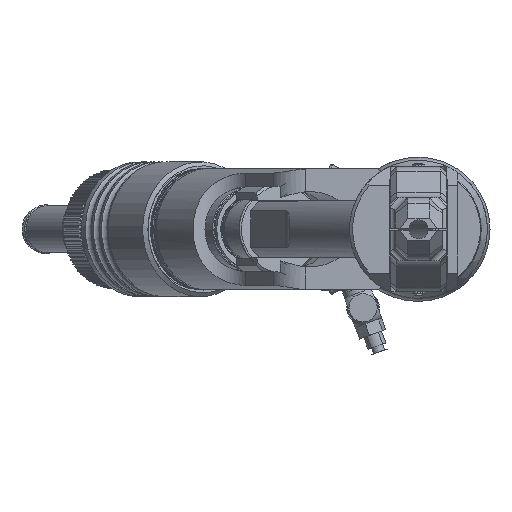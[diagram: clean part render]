
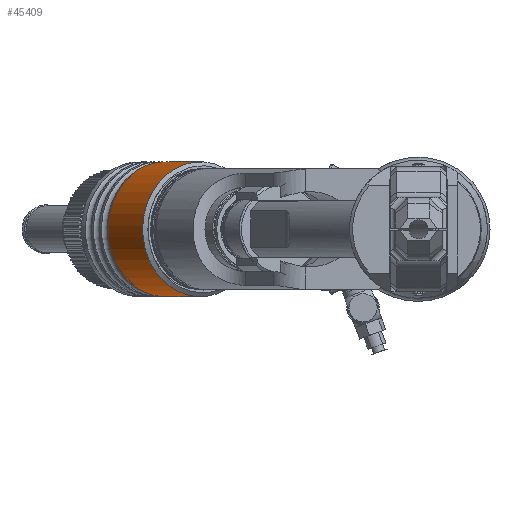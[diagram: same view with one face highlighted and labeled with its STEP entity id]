
A CAD part, left-side view. The second image highlights one B-rep face of the part: STEP entity #45409.
In plain terms, the highlighted cylindrical face has radius 21.5 mm (diameter 43 mm), a full revolution.
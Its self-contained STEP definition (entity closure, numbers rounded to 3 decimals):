
#1078=CYLINDRICAL_SURFACE('',#47967,21.5);
#2062=LINE('',#65032,#5211);
#5211=VECTOR('',#52280,21.5);
#10785=FACE_OUTER_BOUND('',#13256,.T.);
#13256=EDGE_LOOP('',(#29721,#29722,#29723,#29724,#29725,#29726,#29727));
#15994=CIRCLE('',#47964,21.5);
#15995=CIRCLE('',#47965,21.5);
#15996=CIRCLE('',#47966,21.5);
#15997=CIRCLE('',#47968,21.5);
#15998=CIRCLE('',#47969,21.5);
#18071=VERTEX_POINT('',#65020);
#18072=VERTEX_POINT('',#65022);
#18073=VERTEX_POINT('',#65024);
#18074=VERTEX_POINT('',#65028);
#18075=VERTEX_POINT('',#65029);
#22738=EDGE_CURVE('',#18072,#18071,#15994,.T.);
#22739=EDGE_CURVE('',#18073,#18072,#15995,.T.);
#22740=EDGE_CURVE('',#18071,#18073,#15996,.T.);
#22741=EDGE_CURVE('',#18074,#18075,#15997,.T.);
#22742=EDGE_CURVE('',#18075,#18074,#15998,.T.);
#22743=EDGE_CURVE('',#18075,#18073,#2062,.T.);
#29721=ORIENTED_EDGE('',*,*,#22741,.F.);
#29722=ORIENTED_EDGE('',*,*,#22742,.F.);
#29723=ORIENTED_EDGE('',*,*,#22743,.T.);
#29724=ORIENTED_EDGE('',*,*,#22739,.T.);
#29725=ORIENTED_EDGE('',*,*,#22738,.T.);
#29726=ORIENTED_EDGE('',*,*,#22740,.T.);
#29727=ORIENTED_EDGE('',*,*,#22743,.F.);
#45409=ADVANCED_FACE('',(#10785),#1078,.T.);
#47964=AXIS2_PLACEMENT_3D('',#65023,#52268,#52269);
#47965=AXIS2_PLACEMENT_3D('',#65025,#52270,#52271);
#47966=AXIS2_PLACEMENT_3D('',#65026,#52272,#52273);
#47967=AXIS2_PLACEMENT_3D('',#65027,#52274,#52275);
#47968=AXIS2_PLACEMENT_3D('',#65030,#52276,#52277);
#47969=AXIS2_PLACEMENT_3D('',#65031,#52278,#52279);
#52268=DIRECTION('center_axis',(-0.857,-0.515,0.));
#52269=DIRECTION('ref_axis',(-0.352,0.586,-0.73));
#52270=DIRECTION('center_axis',(-0.857,-0.515,0.));
#52271=DIRECTION('ref_axis',(-0.352,0.586,-0.73));
#52272=DIRECTION('center_axis',(-0.857,-0.515,0.));
#52273=DIRECTION('ref_axis',(-0.352,0.586,-0.73));
#52274=DIRECTION('center_axis',(-0.857,-0.515,0.));
#52275=DIRECTION('ref_axis',(-0.352,0.586,-0.73));
#52276=DIRECTION('center_axis',(-0.857,-0.515,0.));
#52277=DIRECTION('ref_axis',(-0.352,0.586,-0.73));
#52278=DIRECTION('center_axis',(-0.857,-0.515,0.));
#52279=DIRECTION('ref_axis',(-0.352,0.586,-0.73));
#52280=DIRECTION('',(0.857,0.515,0.));
#65020=CARTESIAN_POINT('',(-241.277,67.313,-14.691));
#65022=CARTESIAN_POINT('',(-256.942,93.353,-15.697));
#65023=CARTESIAN_POINT('Origin',(-249.369,80.764,0.));
#65024=CARTESIAN_POINT('',(-241.796,68.175,15.698));
#65025=CARTESIAN_POINT('Origin',(-249.369,80.764,0.));
#65026=CARTESIAN_POINT('Origin',(-249.369,80.764,0.));
#65027=CARTESIAN_POINT('Origin',(-258.803,75.089,0.));
#65028=CARTESIAN_POINT('',(-275.809,82.004,-15.697));
#65029=CARTESIAN_POINT('',(-260.663,56.825,15.698));
#65030=CARTESIAN_POINT('Origin',(-268.236,69.414,0.));
#65031=CARTESIAN_POINT('Origin',(-268.236,69.414,0.));
#65032=CARTESIAN_POINT('',(-251.23,62.5,15.698));
